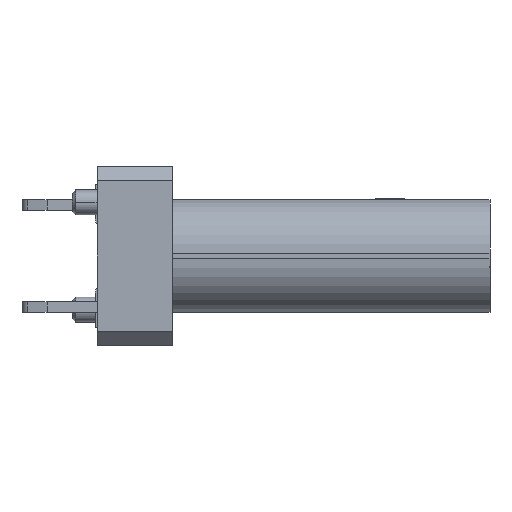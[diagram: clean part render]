
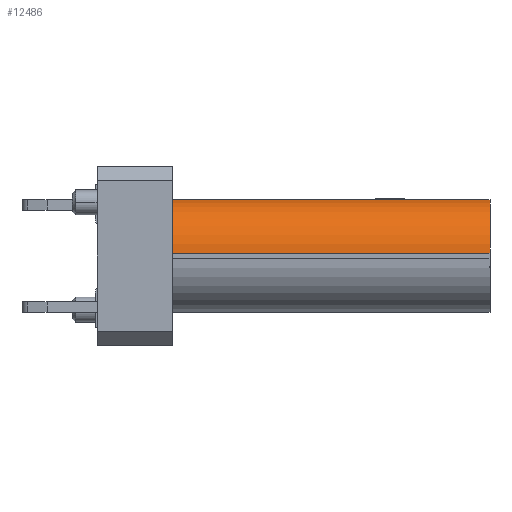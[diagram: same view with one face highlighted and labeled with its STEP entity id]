
A CAD part, left-side view. The second image highlights one B-rep face of the part: STEP entity #12486.
In plain terms, the highlighted cylindrical face has radius 1.5 mm (diameter 3 mm), a partial arc.
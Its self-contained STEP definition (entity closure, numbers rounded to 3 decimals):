
#47 = VECTOR ( 'NONE', #8849, 1000. ) ;
#141 = AXIS2_PLACEMENT_3D ( 'NONE', #4030, #2533, #15641 ) ;
#185 = DIRECTION ( 'NONE',  ( 0., 1., 0. ) ) ;
#463 = CIRCLE ( 'NONE', #1075, 1.5 ) ;
#1075 = AXIS2_PLACEMENT_3D ( 'NONE', #2249, #5072, #3374 ) ;
#2249 = CARTESIAN_POINT ( 'NONE',  ( 21.705, 54.751, -1.5 ) ) ;
#2533 = DIRECTION ( 'NONE',  ( 0., 1., 0. ) ) ;
#2598 = CARTESIAN_POINT ( 'NONE',  ( 21.705, 54.751, 0. ) ) ;
#2690 = VERTEX_POINT ( 'NONE', #6911 ) ;
#3044 = CARTESIAN_POINT ( 'NONE',  ( 21.705, 54.751, 0. ) ) ;
#3374 = DIRECTION ( 'NONE',  ( 0., 0., 1. ) ) ;
#3621 = EDGE_CURVE ( 'NONE', #10237, #2690, #463, .T. ) ;
#3871 = EDGE_CURVE ( 'NONE', #5337, #10257, #8263, .T. ) ;
#4030 = CARTESIAN_POINT ( 'NONE',  ( 21.705, 39.751, -1.5 ) ) ;
#4106 = ORIENTED_EDGE ( 'NONE', *, *, #15207, .F. ) ;
#4299 = CARTESIAN_POINT ( 'NONE',  ( 21.705, 45.851, -1.5 ) ) ;
#4405 = DIRECTION ( 'NONE',  ( 0., 1., 0. ) ) ;
#4501 = DIRECTION ( 'NONE',  ( -1., 0., 0. ) ) ;
#5072 = DIRECTION ( 'NONE',  ( 0., -1., 0. ) ) ;
#5267 = AXIS2_PLACEMENT_3D ( 'NONE', #4299, #185, #4501 ) ;
#5337 = VERTEX_POINT ( 'NONE', #14590 ) ;
#5634 = FACE_OUTER_BOUND ( 'NONE', #6374, .T. ) ;
#6374 = EDGE_LOOP ( 'NONE', ( #4106, #18021, #18547, #12289 ) ) ;
#6911 = CARTESIAN_POINT ( 'NONE',  ( 20.205, 54.751, -1.5 ) ) ;
#8263 = CIRCLE ( 'NONE', #5267, 1.5 ) ;
#8849 = DIRECTION ( 'NONE',  ( 0., -1., 0. ) ) ;
#9571 = CYLINDRICAL_SURFACE ( 'NONE', #141, 1.5 ) ;
#9616 = VECTOR ( 'NONE', #4405, 1000. ) ;
#10015 = LINE ( 'NONE', #17327, #9616 ) ;
#10237 = VERTEX_POINT ( 'NONE', #2598 ) ;
#10257 = VERTEX_POINT ( 'NONE', #17114 ) ;
#12289 = ORIENTED_EDGE ( 'NONE', *, *, #3621, .T. ) ;
#12486 = ADVANCED_FACE ( 'NONE', ( #5634 ), #9571, .T. ) ;
#14437 = EDGE_CURVE ( 'NONE', #10237, #10257, #17089, .T. ) ;
#14590 = CARTESIAN_POINT ( 'NONE',  ( 20.205, 45.851, -1.5 ) ) ;
#15207 = EDGE_CURVE ( 'NONE', #5337, #2690, #10015, .T. ) ;
#15641 = DIRECTION ( 'NONE',  ( -1., 0., 0. ) ) ;
#17089 = LINE ( 'NONE', #3044, #47 ) ;
#17114 = CARTESIAN_POINT ( 'NONE',  ( 21.705, 45.851, 0. ) ) ;
#17327 = CARTESIAN_POINT ( 'NONE',  ( 20.205, 46.851, -1.5 ) ) ;
#18021 = ORIENTED_EDGE ( 'NONE', *, *, #3871, .T. ) ;
#18547 = ORIENTED_EDGE ( 'NONE', *, *, #14437, .F. ) ;
